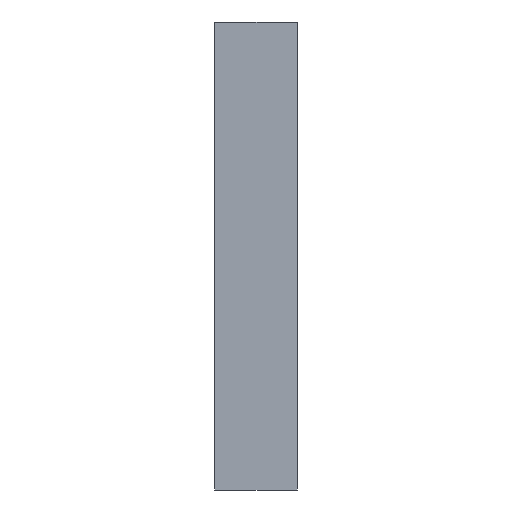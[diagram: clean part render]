
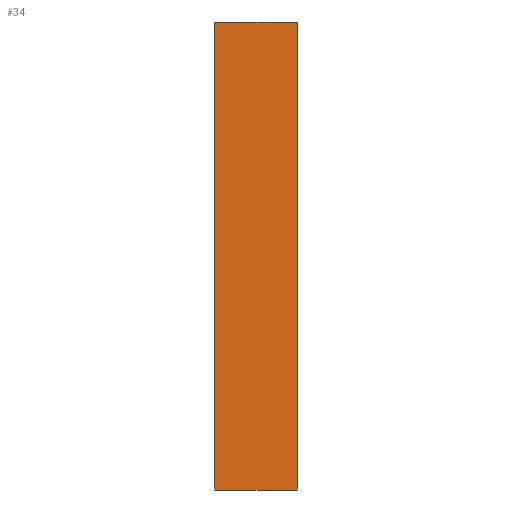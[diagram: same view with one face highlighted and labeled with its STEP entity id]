
A CAD part, front view. The second image highlights one B-rep face of the part: STEP entity #34.
In plain terms, the highlighted planar face has unit normal (0, -1, 0).
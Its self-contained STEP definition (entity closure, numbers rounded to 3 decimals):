
#34=ADVANCED_FACE('',(#52),#665,.T.);
#52=FACE_OUTER_BOUND('',#70,.T.);
#70=EDGE_LOOP('',(#102,#103,#104,#105));
#102=ORIENTED_EDGE('',*,*,#477,.T.);
#103=ORIENTED_EDGE('',*,*,#478,.T.);
#104=ORIENTED_EDGE('',*,*,#479,.T.);
#105=ORIENTED_EDGE('',*,*,#475,.F.);
#235=PCURVE('',#664,#331);
#238=PCURVE('',#665,#334);
#239=PCURVE('',#665,#335);
#240=PCURVE('',#665,#336);
#241=PCURVE('',#665,#337);
#245=PCURVE('',#666,#341);
#283=PCURVE('',#670,#379);
#296=PCURVE('',#671,#392);
#331=DEFINITIONAL_REPRESENTATION('',(#529),#1290);
#334=DEFINITIONAL_REPRESENTATION('',(#534),#1290);
#335=DEFINITIONAL_REPRESENTATION('',(#536),#1290);
#336=DEFINITIONAL_REPRESENTATION('',(#538),#1290);
#337=DEFINITIONAL_REPRESENTATION('',(#539),#1290);
#341=DEFINITIONAL_REPRESENTATION('',(#546),#1290);
#379=DEFINITIONAL_REPRESENTATION('',(#595),#1290);
#392=DEFINITIONAL_REPRESENTATION('',(#600),#1290);
#427=SURFACE_CURVE('',#528,(#235,#241),.PCURVE_S1.);
#429=SURFACE_CURVE('',#533,(#238,#283),.PCURVE_S1.);
#430=SURFACE_CURVE('',#535,(#239,#245),.PCURVE_S1.);
#431=SURFACE_CURVE('',#537,(#240,#296),.PCURVE_S1.);
#475=EDGE_CURVE('',#626,#627,#427,.T.);
#477=EDGE_CURVE('',#626,#628,#429,.T.);
#478=EDGE_CURVE('',#628,#629,#430,.T.);
#479=EDGE_CURVE('',#629,#627,#431,.T.);
#528=B_SPLINE_CURVE_WITH_KNOTS('',1,(#925,#926),.UNSPECIFIED.,.F.,.F.,(2,
2),(0.,6.),.UNSPECIFIED.);
#529=B_SPLINE_CURVE_WITH_KNOTS('',1,(#927,#928),.UNSPECIFIED.,.F.,.F.,(2,
2),(0.,6.),.UNSPECIFIED.);
#533=B_SPLINE_CURVE_WITH_KNOTS('',1,(#935,#936),.UNSPECIFIED.,.F.,.F.,(2,
2),(-6.,-5.),.UNSPECIFIED.);
#534=B_SPLINE_CURVE_WITH_KNOTS('',1,(#937,#938),.UNSPECIFIED.,.F.,.F.,(2,
2),(-6.,-5.),.UNSPECIFIED.);
#535=B_SPLINE_CURVE_WITH_KNOTS('',1,(#939,#940),.UNSPECIFIED.,.F.,.F.,(2,
2),(0.,6.),.UNSPECIFIED.);
#536=B_SPLINE_CURVE_WITH_KNOTS('',1,(#941,#942),.UNSPECIFIED.,.F.,.F.,(2,
2),(0.,6.),.UNSPECIFIED.);
#537=B_SPLINE_CURVE_WITH_KNOTS('',1,(#943,#944),.UNSPECIFIED.,.F.,.F.,(2,
2),(5.,6.),.UNSPECIFIED.);
#538=B_SPLINE_CURVE_WITH_KNOTS('',1,(#945,#946),.UNSPECIFIED.,.F.,.F.,(2,
2),(5.,6.),.UNSPECIFIED.);
#539=B_SPLINE_CURVE_WITH_KNOTS('',1,(#947,#948),.UNSPECIFIED.,.F.,.F.,(2,
2),(0.,6.),.UNSPECIFIED.);
#546=B_SPLINE_CURVE_WITH_KNOTS('',1,(#961,#962),.UNSPECIFIED.,.F.,.F.,(2,
2),(0.,6.),.UNSPECIFIED.);
#595=B_SPLINE_CURVE_WITH_KNOTS('',1,(#1115,#1116),.UNSPECIFIED.,.F.,.F.,
(2,2),(-6.,-5.),.UNSPECIFIED.);
#600=B_SPLINE_CURVE_WITH_KNOTS('',1,(#1185,#1186),.UNSPECIFIED.,.F.,.F.,
(2,2),(5.,6.),.UNSPECIFIED.);
#626=VERTEX_POINT('',#877);
#627=VERTEX_POINT('',#878);
#628=VERTEX_POINT('',#879);
#629=VERTEX_POINT('',#880);
#664=PLANE('',#693);
#665=PLANE('',#694);
#666=PLANE('',#695);
#670=PLANE('',#699);
#671=PLANE('',#700);
#693=AXIS2_PLACEMENT_3D('',#717,#705,$);
#694=AXIS2_PLACEMENT_3D('',#718,#706,$);
#695=AXIS2_PLACEMENT_3D('',#719,#707,$);
#699=AXIS2_PLACEMENT_3D('',#799,#711,$);
#700=AXIS2_PLACEMENT_3D('',#800,#712,$);
#705=DIRECTION('',(0.,0.,1.));
#706=DIRECTION('',(0.,-1.,0.));
#707=DIRECTION('',(0.,0.,-1.));
#711=DIRECTION('',(-1.,0.,0.));
#712=DIRECTION('',(1.,0.,0.));
#717=CARTESIAN_POINT('',(742.,-516.,17.));
#718=CARTESIAN_POINT('',(742.,-545.,17.));
#719=CARTESIAN_POINT('',(742.,-545.,-17.));
#799=CARTESIAN_POINT('',(742.,-455.,21.25));
#800=CARTESIAN_POINT('',(748.,-455.,21.25));
#877=CARTESIAN_POINT('',(742.,-545.,17.));
#878=CARTESIAN_POINT('',(748.,-545.,17.));
#879=CARTESIAN_POINT('',(742.,-545.,-17.));
#880=CARTESIAN_POINT('',(748.,-545.,-17.));
#925=CARTESIAN_POINT('',(742.,-545.,17.));
#926=CARTESIAN_POINT('',(748.,-545.,17.));
#927=CARTESIAN_POINT('',(-6.,0.));
#928=CARTESIAN_POINT('',(-6.,6.));
#935=CARTESIAN_POINT('',(742.,-545.,17.));
#936=CARTESIAN_POINT('',(742.,-545.,-17.));
#937=CARTESIAN_POINT('',(-6.,0.));
#938=CARTESIAN_POINT('',(-5.,0.));
#939=CARTESIAN_POINT('',(742.,-545.,-17.));
#940=CARTESIAN_POINT('',(748.,-545.,-17.));
#941=CARTESIAN_POINT('',(-5.,0.));
#942=CARTESIAN_POINT('',(-5.,6.));
#943=CARTESIAN_POINT('',(748.,-545.,-17.));
#944=CARTESIAN_POINT('',(748.,-545.,17.));
#945=CARTESIAN_POINT('',(-5.,6.));
#946=CARTESIAN_POINT('',(-6.,6.));
#947=CARTESIAN_POINT('',(-6.,0.));
#948=CARTESIAN_POINT('',(-6.,6.));
#961=CARTESIAN_POINT('',(-5.,0.));
#962=CARTESIAN_POINT('',(-5.,6.));
#1115=CARTESIAN_POINT('',(-9.,64.5));
#1116=CARTESIAN_POINT('',(25.,64.5));
#1185=CARTESIAN_POINT('',(64.5,25.));
#1186=CARTESIAN_POINT('',(64.5,-9.));
#1290=(
GEOMETRIC_REPRESENTATION_CONTEXT(2)
PARAMETRIC_REPRESENTATION_CONTEXT()
REPRESENTATION_CONTEXT('pspace','')
);
